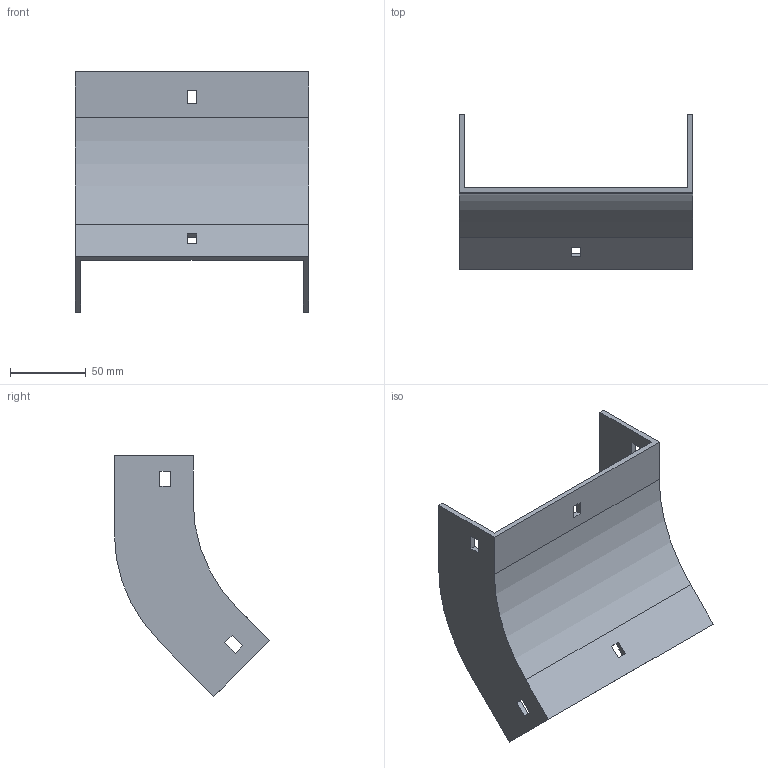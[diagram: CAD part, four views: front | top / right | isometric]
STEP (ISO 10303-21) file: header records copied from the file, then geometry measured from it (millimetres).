
FILE_DESCRIPTION (( 'STEP AP214' ), '1' );
FILE_NAME ('34F1B150.step', '2025-02-21T12:50:51', ( '' ), ( '' ), 'SwSTEP 2.0', 'SolidWorks 2023', '' );
FILE_SCHEMA (( 'AUTOMOTIVE_DESIGN' ));
Length unit declared in the file: millimetre
Products named in the file (1): 34F1B150
Bounding box: 154 x 102.5 x 158.69 mm (x, y, z)
Volume: 130431.4 mm3; surface area: 78243.9 mm2
Topology: 1 solids, 1 shells, 42 faces, 120 edges, 80 vertices
Faces by surface type: plane 38, cylinder 4
Entity records: 1399 total; most frequent: CARTESIAN_POINT 243, ORIENTED_EDGE 240, DIRECTION 214, EDGE_CURVE 120, VECTOR 112, LINE 112, VERTEX_POINT 80, EDGE_LOOP 54
